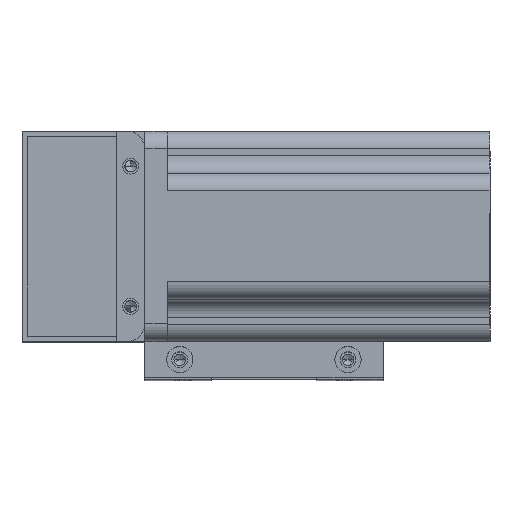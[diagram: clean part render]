
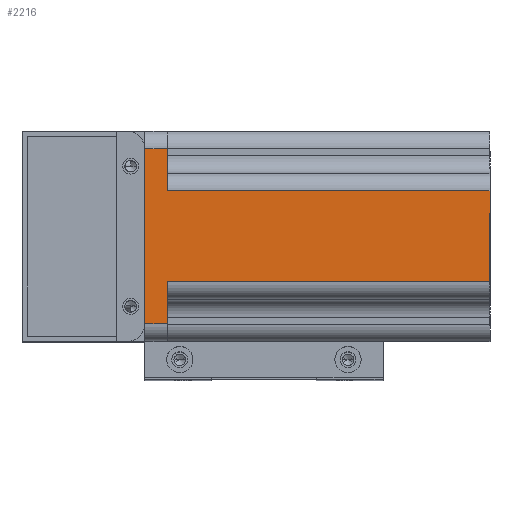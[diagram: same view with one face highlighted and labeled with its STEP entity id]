
A CAD part, top view. The second image highlights one B-rep face of the part: STEP entity #2216.
In plain terms, the highlighted planar face has unit normal (0, 0, 1) as drawn and (-1, 0, 0) by its records, which use the part's own axes.
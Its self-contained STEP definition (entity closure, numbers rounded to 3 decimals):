
#355 = VERTEX_POINT ( 'NONE', #22715 ) ;
#1452 = CARTESIAN_POINT ( 'NONE',  ( -30., 25., 6.5 ) ) ;
#1871 = AXIS2_PLACEMENT_3D ( 'NONE', #18050, #6092, #23729 ) ;
#2021 = ORIENTED_EDGE ( 'NONE', *, *, #3814, .T. ) ;
#2111 = CARTESIAN_POINT ( 'NONE',  ( -30., -13., -92. ) ) ;
#2216 = ADVANCED_FACE ( 'NONE', ( #19179 ), #23999, .F. ) ;
#2328 = EDGE_CURVE ( 'NONE', #7954, #355, #8052, .T. ) ;
#3038 = DIRECTION ( 'NONE',  ( 0., 0., -1. ) ) ;
#3808 = LINE ( 'NONE', #10010, #17304 ) ;
#3814 = EDGE_CURVE ( 'NONE', #4828, #14136, #24636, .T. ) ;
#4241 = LINE ( 'NONE', #23674, #15855 ) ;
#4311 = VERTEX_POINT ( 'NONE', #14709 ) ;
#4419 = ORIENTED_EDGE ( 'NONE', *, *, #20759, .T. ) ;
#4828 = VERTEX_POINT ( 'NONE', #6458 ) ;
#4864 = ORIENTED_EDGE ( 'NONE', *, *, #14559, .F. ) ;
#5444 = LINE ( 'NONE', #21811, #24831 ) ;
#5722 = EDGE_CURVE ( 'NONE', #4311, #4828, #4241, .T. ) ;
#6092 = DIRECTION ( 'NONE',  ( 1., 0., 0. ) ) ;
#6458 = CARTESIAN_POINT ( 'NONE',  ( -30., 13., 0. ) ) ;
#7787 = CARTESIAN_POINT ( 'NONE',  ( -30., -25., 0. ) ) ;
#7954 = VERTEX_POINT ( 'NONE', #1452 ) ;
#8052 = LINE ( 'NONE', #12533, #9308 ) ;
#8085 = VERTEX_POINT ( 'NONE', #2111 ) ;
#8570 = DIRECTION ( 'NONE',  ( 0., -1., 0. ) ) ;
#8671 = ORIENTED_EDGE ( 'NONE', *, *, #19601, .T. ) ;
#8908 = VECTOR ( 'NONE', #3038, 1000. ) ;
#9308 = VECTOR ( 'NONE', #8570, 1000. ) ;
#9775 = DIRECTION ( 'NONE',  ( 0., 0., -1. ) ) ;
#10010 = CARTESIAN_POINT ( 'NONE',  ( -30., -13., 6.5 ) ) ;
#10420 = CARTESIAN_POINT ( 'NONE',  ( -30., -18., -92. ) ) ;
#10513 = CARTESIAN_POINT ( 'NONE',  ( -30., 13., -92. ) ) ;
#11966 = LINE ( 'NONE', #10420, #16564 ) ;
#12533 = CARTESIAN_POINT ( 'NONE',  ( -30., -25., 6.5 ) ) ;
#13687 = DIRECTION ( 'NONE',  ( 0., -1., 0. ) ) ;
#13701 = ORIENTED_EDGE ( 'NONE', *, *, #17404, .T. ) ;
#14136 = VERTEX_POINT ( 'NONE', #10513 ) ;
#14279 = DIRECTION ( 'NONE',  ( 0., 1., 0. ) ) ;
#14559 = EDGE_CURVE ( 'NONE', #355, #17174, #5444, .T. ) ;
#14648 = CARTESIAN_POINT ( 'NONE',  ( -30., 13., 6.5 ) ) ;
#14709 = CARTESIAN_POINT ( 'NONE',  ( -30., 25., 0. ) ) ;
#15855 = VECTOR ( 'NONE', #13687, 1000. ) ;
#16127 = ORIENTED_EDGE ( 'NONE', *, *, #5722, .T. ) ;
#16216 = ORIENTED_EDGE ( 'NONE', *, *, #2328, .F. ) ;
#16564 = VECTOR ( 'NONE', #14279, 1000. ) ;
#17174 = VERTEX_POINT ( 'NONE', #25257 ) ;
#17304 = VECTOR ( 'NONE', #23878, 1000. ) ;
#17404 = EDGE_CURVE ( 'NONE', #8085, #21308, #3808, .T. ) ;
#17592 = DIRECTION ( 'NONE',  ( 0., -1., 0. ) ) ;
#18050 = CARTESIAN_POINT ( 'NONE',  ( -30., -25., 6.5 ) ) ;
#19179 = FACE_OUTER_BOUND ( 'NONE', #21675, .T. ) ;
#19270 = EDGE_CURVE ( 'NONE', #8085, #14136, #11966, .T. ) ;
#19601 = EDGE_CURVE ( 'NONE', #21308, #17174, #24312, .T. ) ;
#20589 = VECTOR ( 'NONE', #17592, 1000. ) ;
#20759 = EDGE_CURVE ( 'NONE', #7954, #4311, #21509, .T. ) ;
#20981 = ORIENTED_EDGE ( 'NONE', *, *, #19270, .F. ) ;
#21308 = VERTEX_POINT ( 'NONE', #23803 ) ;
#21509 = LINE ( 'NONE', #22090, #21832 ) ;
#21675 = EDGE_LOOP ( 'NONE', ( #20981, #13701, #8671, #4864, #16216, #4419, #16127, #2021 ) ) ;
#21811 = CARTESIAN_POINT ( 'NONE',  ( -30., -25., 6.5 ) ) ;
#21824 = DIRECTION ( 'NONE',  ( 0., 0., -1. ) ) ;
#21832 = VECTOR ( 'NONE', #21824, 1000. ) ;
#22090 = CARTESIAN_POINT ( 'NONE',  ( -30., 25., 6.5 ) ) ;
#22715 = CARTESIAN_POINT ( 'NONE',  ( -30., -25., 6.5 ) ) ;
#23674 = CARTESIAN_POINT ( 'NONE',  ( -30., -25., 0. ) ) ;
#23729 = DIRECTION ( 'NONE',  ( 0., 0., -1. ) ) ;
#23803 = CARTESIAN_POINT ( 'NONE',  ( -30., -13., 0. ) ) ;
#23878 = DIRECTION ( 'NONE',  ( 0., 0., 1. ) ) ;
#23999 = PLANE ( 'NONE',  #1871 ) ;
#24312 = LINE ( 'NONE', #7787, #20589 ) ;
#24636 = LINE ( 'NONE', #14648, #8908 ) ;
#24831 = VECTOR ( 'NONE', #9775, 1000. ) ;
#25257 = CARTESIAN_POINT ( 'NONE',  ( -30., -25., 0. ) ) ;
